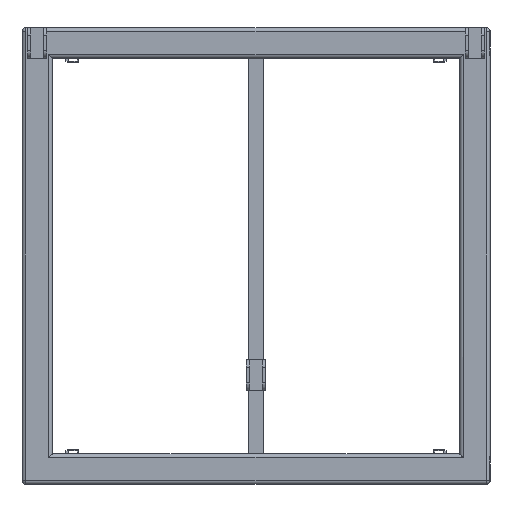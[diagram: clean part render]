
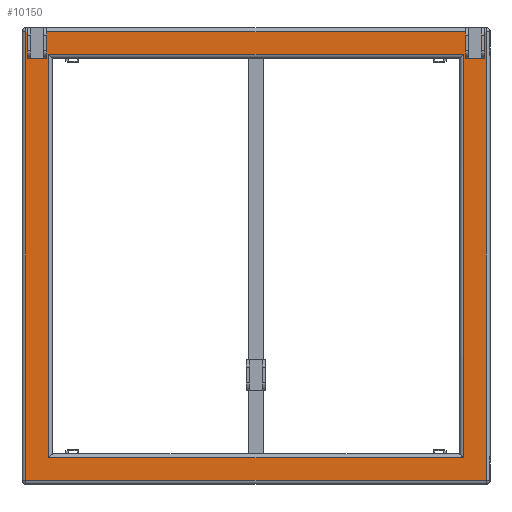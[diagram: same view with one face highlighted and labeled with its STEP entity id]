
A CAD part, front view. The second image highlights one B-rep face of the part: STEP entity #10150.
In plain terms, the highlighted planar face has unit normal (0, -1, 0) as drawn and (0, 0, -1) by its records, which use the part's own axes.
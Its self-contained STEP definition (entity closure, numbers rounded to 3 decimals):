
#1846 = CARTESIAN_POINT ( 'NONE',  ( 32.5, 40., -300. ) ) ;
#1900 = CARTESIAN_POINT ( 'NONE',  ( 582.5, 40., -300. ) ) ;
#2052 = CARTESIAN_POINT ( 'NONE',  ( 7.5, 40., -300. ) ) ;
#2053 = DIRECTION ( 'NONE',  ( 0., 1., 0. ) ) ;
#2054 = VECTOR ( 'NONE', #2053, 1000. ) ;
#2055 = CARTESIAN_POINT ( 'NONE',  ( 7.5, 0.01, -300. ) ) ;
#2056 = LINE ( 'NONE', #2055, #2054 ) ;
#2057 = CARTESIAN_POINT ( 'NONE',  ( 7.5, 5.01, -300. ) ) ;
#2130 = CARTESIAN_POINT ( 'NONE',  ( 607.5, 5.01, -300. ) ) ;
#2131 = DIRECTION ( 'NONE',  ( 0., -1., 0. ) ) ;
#2132 = VECTOR ( 'NONE', #2131, 1000. ) ;
#2133 = CARTESIAN_POINT ( 'NONE',  ( 607.5, 0.01, -300. ) ) ;
#2134 = LINE ( 'NONE', #2133, #2132 ) ;
#2178 = DIRECTION ( 'NONE',  ( 1., 0., 0. ) ) ;
#2179 = VECTOR ( 'NONE', #2178, 1000. ) ;
#2180 = CARTESIAN_POINT ( 'NONE',  ( 0., 40., -300. ) ) ;
#2181 = LINE ( 'NONE', #2180, #2179 ) ;
#2325 = CARTESIAN_POINT ( 'NONE',  ( 607.5, 40., -300. ) ) ;
#2326 = DIRECTION ( 'NONE',  ( 1., 0., 0. ) ) ;
#2327 = VECTOR ( 'NONE', #2326, 1000. ) ;
#2328 = CARTESIAN_POINT ( 'NONE',  ( 0., 40., -300. ) ) ;
#2329 = LINE ( 'NONE', #2328, #2327 ) ;
#2335 = DIRECTION ( 'NONE',  ( 0., 1., 0. ) ) ;
#2336 = VECTOR ( 'NONE', #2335, 1000. ) ;
#2337 = CARTESIAN_POINT ( 'NONE',  ( 582.5, 0.01, -300. ) ) ;
#2338 = LINE ( 'NONE', #2337, #2336 ) ;
#2339 = CARTESIAN_POINT ( 'NONE',  ( 582.5, 5.01, -300. ) ) ;
#2347 = CARTESIAN_POINT ( 'NONE',  ( 5., 595.01, -300. ) ) ;
#2424 = CARTESIAN_POINT ( 'NONE',  ( 5., 5.01, -300. ) ) ;
#2489 = CARTESIAN_POINT ( 'NONE',  ( 35., 35.01, -300. ) ) ;
#2490 = CARTESIAN_POINT ( 'NONE',  ( 580., 35.01, -300. ) ) ;
#2491 = DIRECTION ( 'NONE',  ( -1., 0., 0. ) ) ;
#2492 = VECTOR ( 'NONE', #2491, 1000. ) ;
#2493 = CARTESIAN_POINT ( 'NONE',  ( 287.5, 35.01, -300. ) ) ;
#2494 = LINE ( 'NONE', #2493, #2492 ) ;
#2532 = DIRECTION ( 'NONE',  ( 1., 0., 0. ) ) ;
#2533 = DIRECTION ( 'NONE',  ( 0., 0., 1. ) ) ;
#2534 = CARTESIAN_POINT ( 'NONE',  ( 0., 0.01, -300. ) ) ;
#2536 = AXIS2_PLACEMENT_3D ( 'NONE', #2534, #2533, #2532 ) ;
#2537 = PLANE ( 'NONE',  #2536 ) ;
#2538 = FACE_BOUND ( 'NONE', #10133, .T. ) ;
#2542 = FACE_OUTER_BOUND ( 'NONE', #10152, .T. ) ;
#2548 = CARTESIAN_POINT ( 'NONE',  ( 32.5, 5.01, -300. ) ) ;
#2582 = DIRECTION ( 'NONE',  ( 0., -1., 0. ) ) ;
#2583 = VECTOR ( 'NONE', #2582, 1000. ) ;
#2584 = CARTESIAN_POINT ( 'NONE',  ( 32.5, 0.01, -300. ) ) ;
#2585 = LINE ( 'NONE', #2584, #2583 ) ;
#2612 = CARTESIAN_POINT ( 'NONE',  ( 580., 565.01, -300. ) ) ;
#2613 = DIRECTION ( 'NONE',  ( 0., -1., 0. ) ) ;
#2614 = VECTOR ( 'NONE', #2613, 1000. ) ;
#2615 = CARTESIAN_POINT ( 'NONE',  ( 580., 280.01, -300. ) ) ;
#2616 = LINE ( 'NONE', #2615, #2614 ) ;
#2646 = DIRECTION ( 'NONE',  ( 0., 1., 0. ) ) ;
#2647 = VECTOR ( 'NONE', #2646, 1000. ) ;
#2648 = CARTESIAN_POINT ( 'NONE',  ( 35., 20.01, -300. ) ) ;
#2649 = LINE ( 'NONE', #2648, #2647 ) ;
#2661 = CARTESIAN_POINT ( 'NONE',  ( 35., 565.01, -300. ) ) ;
#2662 = DIRECTION ( 'NONE',  ( 1., 0., 0. ) ) ;
#2663 = VECTOR ( 'NONE', #2662, 1000. ) ;
#2664 = CARTESIAN_POINT ( 'NONE',  ( 287.5, 565.01, -300. ) ) ;
#2670 = LINE ( 'NONE', #2664, #2663 ) ;
#2684 = DIRECTION ( 'NONE',  ( 1., 0., 0. ) ) ;
#2685 = VECTOR ( 'NONE', #2684, 1000. ) ;
#2686 = CARTESIAN_POINT ( 'NONE',  ( 307.5, 5.01, -300. ) ) ;
#2687 = LINE ( 'NONE', #2686, #2685 ) ;
#7521 = DIRECTION ( 'NONE',  ( 0., -1., 0. ) ) ;
#7522 = VECTOR ( 'NONE', #7521, 1000. ) ;
#7523 = CARTESIAN_POINT ( 'NONE',  ( 5., 0.01, -300. ) ) ;
#7524 = LINE ( 'NONE', #7523, #7522 ) ;
#8453 = DIRECTION ( 'NONE',  ( 1., 0., 0. ) ) ;
#8454 = VECTOR ( 'NONE', #8453, 1000. ) ;
#8455 = CARTESIAN_POINT ( 'NONE',  ( 307.5, 5.01, -300. ) ) ;
#8456 = LINE ( 'NONE', #8455, #8454 ) ;
#8484 = DIRECTION ( 'NONE',  ( 1., 0., 0. ) ) ;
#8485 = VECTOR ( 'NONE', #8484, 1000. ) ;
#8486 = CARTESIAN_POINT ( 'NONE',  ( 307.5, 5.01, -300. ) ) ;
#8487 = LINE ( 'NONE', #8486, #8485 ) ;
#8505 = DIRECTION ( 'NONE',  ( 0., 1., 0. ) ) ;
#8506 = VECTOR ( 'NONE', #8505, 1000. ) ;
#8507 = CARTESIAN_POINT ( 'NONE',  ( 610., 300.01, -300. ) ) ;
#8508 = LINE ( 'NONE', #8507, #8506 ) ;
#8513 = CARTESIAN_POINT ( 'NONE',  ( 610., 595.01, -300. ) ) ;
#8514 = CARTESIAN_POINT ( 'NONE',  ( 610., 5.01, -300. ) ) ;
#8551 = DIRECTION ( 'NONE',  ( -1., 0., 0. ) ) ;
#8552 = VECTOR ( 'NONE', #8551, 1000. ) ;
#8553 = CARTESIAN_POINT ( 'NONE',  ( 307.5, 595.01, -300. ) ) ;
#8554 = LINE ( 'NONE', #8553, #8552 ) ;
#9722 = VERTEX_POINT ( 'NONE', #1846 ) ;
#9730 = VERTEX_POINT ( 'NONE', #1900 ) ;
#9824 = VERTEX_POINT ( 'NONE', #2057 ) ;
#9826 = EDGE_CURVE ( 'NONE', #9824, #9827, #2056, .T. ) ;
#9827 = VERTEX_POINT ( 'NONE', #2052 ) ;
#9909 = EDGE_CURVE ( 'NONE', #10032, #9910, #2134, .T. ) ;
#9910 = VERTEX_POINT ( 'NONE', #2130 ) ;
#9916 = EDGE_CURVE ( 'NONE', #9827, #9722, #2181, .T. ) ;
#10012 = VERTEX_POINT ( 'NONE', #2339 ) ;
#10015 = EDGE_CURVE ( 'NONE', #10012, #9730, #2338, .T. ) ;
#10029 = EDGE_CURVE ( 'NONE', #9730, #10032, #2329, .T. ) ;
#10032 = VERTEX_POINT ( 'NONE', #2325 ) ;
#10057 = VERTEX_POINT ( 'NONE', #2347 ) ;
#10079 = VERTEX_POINT ( 'NONE', #2424 ) ;
#10126 = ORIENTED_EDGE ( 'NONE', *, *, #9916, .F. ) ;
#10131 = ORIENTED_EDGE ( 'NONE', *, *, #9826, .F. ) ;
#10132 = ORIENTED_EDGE ( 'NONE', *, *, #9909, .F. ) ;
#10133 = EDGE_LOOP ( 'NONE', ( #10134, #10258, #10263, #10271 ) ) ;
#10134 = ORIENTED_EDGE ( 'NONE', *, *, #10136, .F. ) ;
#10136 = EDGE_CURVE ( 'NONE', #10137, #10138, #2494, .T. ) ;
#10137 = VERTEX_POINT ( 'NONE', #2490 ) ;
#10138 = VERTEX_POINT ( 'NONE', #2489 ) ;
#10139 = ORIENTED_EDGE ( 'NONE', *, *, #10029, .F. ) ;
#10140 = ORIENTED_EDGE ( 'NONE', *, *, #10238, .F. ) ;
#10141 = ORIENTED_EDGE ( 'NONE', *, *, #10015, .F. ) ;
#10142 = ORIENTED_EDGE ( 'NONE', *, *, #14489, .F. ) ;
#10150 = ADVANCED_FACE ( 'NONE', ( #2542, #2538 ), #2537, .F. ) ;
#10152 = EDGE_LOOP ( 'NONE', ( #10139, #10141, #10142, #10140, #10126, #10131, #10288, #13379, #14536, #14531, #14494, #10132 ) ) ;
#10206 = VERTEX_POINT ( 'NONE', #2548 ) ;
#10238 = EDGE_CURVE ( 'NONE', #9722, #10206, #2585, .T. ) ;
#10258 = ORIENTED_EDGE ( 'NONE', *, *, #10261, .F. ) ;
#10261 = EDGE_CURVE ( 'NONE', #10262, #10137, #2616, .T. ) ;
#10262 = VERTEX_POINT ( 'NONE', #2612 ) ;
#10263 = ORIENTED_EDGE ( 'NONE', *, *, #10266, .F. ) ;
#10266 = EDGE_CURVE ( 'NONE', #10267, #10262, #2670, .T. ) ;
#10267 = VERTEX_POINT ( 'NONE', #2661 ) ;
#10271 = ORIENTED_EDGE ( 'NONE', *, *, #10274, .F. ) ;
#10274 = EDGE_CURVE ( 'NONE', #10138, #10267, #2649, .T. ) ;
#10288 = ORIENTED_EDGE ( 'NONE', *, *, #10290, .F. ) ;
#10290 = EDGE_CURVE ( 'NONE', #10079, #9824, #2687, .T. ) ;
#13220 = EDGE_CURVE ( 'NONE', #10057, #10079, #7524, .T. ) ;
#13379 = ORIENTED_EDGE ( 'NONE', *, *, #13220, .F. ) ;
#14489 = EDGE_CURVE ( 'NONE', #10206, #10012, #8456, .T. ) ;
#14494 = ORIENTED_EDGE ( 'NONE', *, *, #14513, .F. ) ;
#14513 = EDGE_CURVE ( 'NONE', #9910, #14529, #8487, .T. ) ;
#14529 = VERTEX_POINT ( 'NONE', #8514 ) ;
#14530 = VERTEX_POINT ( 'NONE', #8513 ) ;
#14531 = ORIENTED_EDGE ( 'NONE', *, *, #14534, .F. ) ;
#14534 = EDGE_CURVE ( 'NONE', #14529, #14530, #8508, .T. ) ;
#14536 = ORIENTED_EDGE ( 'NONE', *, *, #14540, .F. ) ;
#14540 = EDGE_CURVE ( 'NONE', #14530, #10057, #8554, .T. ) ;
